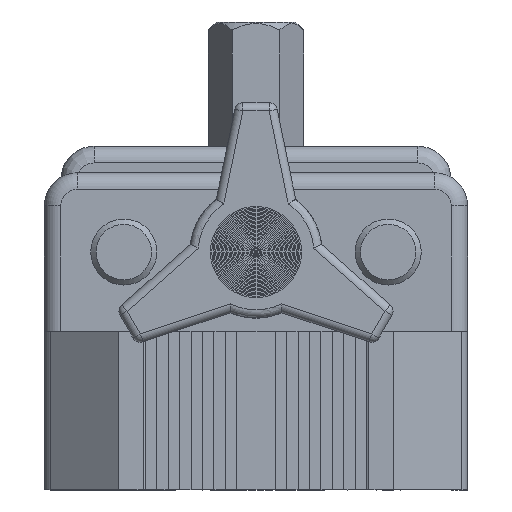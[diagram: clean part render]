
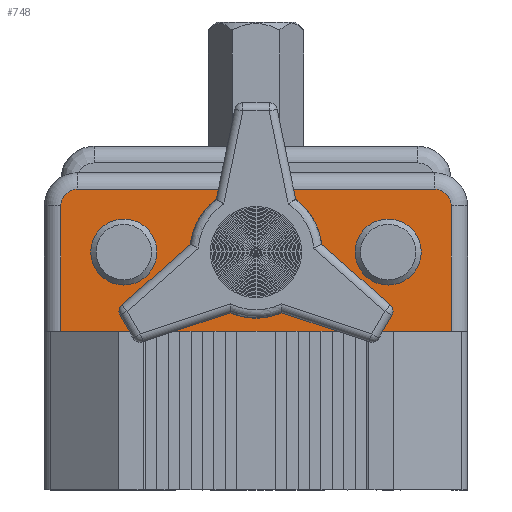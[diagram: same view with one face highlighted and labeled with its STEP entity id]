
A CAD part, left-side view. The second image highlights one B-rep face of the part: STEP entity #748.
In plain terms, the highlighted planar face has unit normal (-1, 0, 0).
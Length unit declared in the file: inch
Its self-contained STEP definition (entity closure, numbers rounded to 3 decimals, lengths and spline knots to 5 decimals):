
#126=CARTESIAN_POINT('',(136.18692,109.27053,-120.41953));
#127=VERTEX_POINT('',#126);
#209=CARTESIAN_POINT('',(136.18692,107.79453,-120.41953));
#210=VERTEX_POINT('',#209);
#218=CARTESIAN_POINT('',(136.18692,107.79453,-120.41953));
#219=DIRECTION('',(0.0,1.0,0.0));
#220=VECTOR('',#219,1.476);
#221=LINE('',#218,#220);
#222=EDGE_CURVE('',#210,#127,#221,.T.);
#559=CARTESIAN_POINT('',(136.18692,107.79453,-119.94453));
#560=VERTEX_POINT('',#559);
#568=CARTESIAN_POINT('',(136.18692,107.79453,-119.94453));
#569=DIRECTION('',(0.0,0.0,-1.0));
#570=VECTOR('',#569,0.475);
#571=LINE('',#568,#570);
#572=EDGE_CURVE('',#560,#210,#571,.T.);
#582=CARTESIAN_POINT('',(136.18692,107.85753,-119.88153));
#583=VERTEX_POINT('',#582);
#591=CARTESIAN_POINT('',(136.18692,107.85753,-119.94453));
#592=DIRECTION('',(1.0,0.,0.));
#593=DIRECTION('',(0.,-0.707,0.707));
#594=AXIS2_PLACEMENT_3D('',#591,#592,#593);
#595=CIRCLE('',#594,0.063);
#596=EDGE_CURVE('',#583,#560,#595,.T.);
#614=CARTESIAN_POINT('',(136.18692,109.20753,-119.88153));
#615=VERTEX_POINT('',#614);
#623=CARTESIAN_POINT('',(136.18692,109.20753,-119.88153));
#624=DIRECTION('',(0.0,-1.0,0.0));
#625=VECTOR('',#624,1.35);
#626=LINE('',#623,#625);
#627=EDGE_CURVE('',#615,#583,#626,.T.);
#639=CARTESIAN_POINT('',(136.18692,109.27053,-119.94453));
#640=VERTEX_POINT('',#639);
#648=CARTESIAN_POINT('',(136.18692,109.20753,-119.94453));
#649=DIRECTION('',(1.0,0.,0.));
#650=DIRECTION('',(0.,0.707,0.707));
#651=AXIS2_PLACEMENT_3D('',#648,#649,#650);
#652=CIRCLE('',#651,0.063);
#653=EDGE_CURVE('',#640,#615,#652,.T.);
#672=CARTESIAN_POINT('',(136.18692,109.27053,-120.41953));
#673=DIRECTION('',(0.0,0.0,1.0));
#674=VECTOR('',#673,0.475);
#675=LINE('',#672,#674);
#676=EDGE_CURVE('',#127,#640,#675,.T.);
#717=CARTESIAN_POINT('',(136.18692,108.65753,-120.11953));
#718=VERTEX_POINT('',#717);
#719=CARTESIAN_POINT('',(136.18692,108.53253,-120.11953));
#720=DIRECTION('',(1.0,0.0,0.0));
#721=DIRECTION('',(0.0,-1.0,0.0));
#722=AXIS2_PLACEMENT_3D('',#719,#720,#721);
#723=CIRCLE('',#722,0.125);
#724=EDGE_CURVE('',#718,#718,#723,.T.);
#732=CARTESIAN_POINT('',(136.18692,108.53253,-120.11953));
#733=DIRECTION('',(1.0,0.0,0.0));
#734=DIRECTION('',(0.0,-1.0,0.0));
#735=AXIS2_PLACEMENT_3D('',#732,#733,#734);
#736=PLANE('',#735);
#737=ORIENTED_EDGE('',*,*,#676,.F.);
#738=ORIENTED_EDGE('',*,*,#222,.F.);
#739=ORIENTED_EDGE('',*,*,#572,.F.);
#740=ORIENTED_EDGE('',*,*,#596,.F.);
#741=ORIENTED_EDGE('',*,*,#627,.F.);
#742=ORIENTED_EDGE('',*,*,#653,.F.);
#743=EDGE_LOOP('',(#737,#738,#739,#740,#741,#742));
#744=FACE_OUTER_BOUND('',#743,.T.);
#745=ORIENTED_EDGE('',*,*,#724,.T.);
#746=EDGE_LOOP('',(#745));
#747=FACE_BOUND('',#746,.T.);
#748=ADVANCED_FACE('',(#744,#747),#736,.F.);
